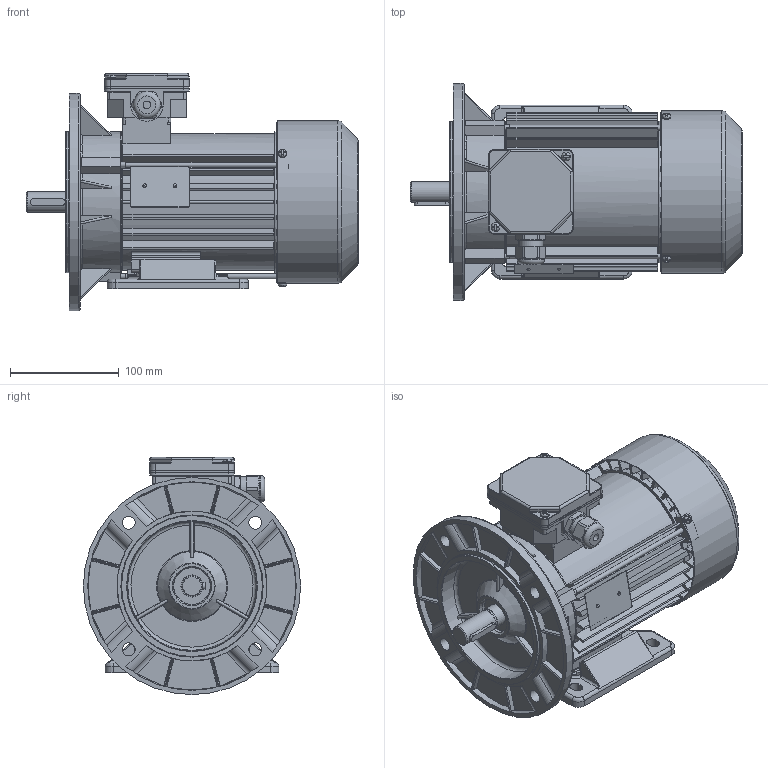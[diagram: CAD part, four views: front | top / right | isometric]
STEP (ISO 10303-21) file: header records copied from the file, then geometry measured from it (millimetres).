
FILE_DESCRIPTION(/* description */ ('Unknown'),/* implementation_level */ '2;1');
FILE_NAME(/* name */ '2SIEL80-6B',/* time_stamp */ '2021-04-12T15:01:57+02:00',/* author */ ('Unknown'),/* organization */ ('Unknown'),/* preprocessor_version */ 'ST-DEVELOPER v16.7',/* originating_system */ 'Solid Edge',/* authorisation */ 'Unknown');
FILE_SCHEMA (('AUTOMOTIVE_DESIGN {1 0 10303 214 3 1 1}'));
Products named in the file (1): 2SIEL80-6B
Bounding box: 305.79 x 200 x 218.5 mm (x, y, z)
Volume: 1196962.8 mm3; surface area: 615313.3 mm2
Topology: 4 solids, 4 shells, 2523 faces, 7134 edges, 4603 vertices
Faces by surface type: plane 1263, cylinder 876, bspline 144, torus 128, cone 94, sphere 18
Full cylindrical faces by diameter (mm): 2 x2, 2.4 x2, 3 x1, 3.7 x8, 4 x3, 4.5 x1, 4.6 x3, 4.8 x2, 5 x5, 5.5 x3, 6.5 x4, 7 x1, 8 x9, 12 x4, 18.598 x1, 18.998 x1, 19.298 x1, 19.498 x1, 19.898 x1, 19.948 x1, 19.998 x2, 20.4 x2, 22.3 x1, 25 x1, 25.497 x1, 25.647 x1, 25.997 x3, 26.047 x1, 28.799 x4, 34 x2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
Entity records: 100164 total; most frequent: CARTESIAN_POINT 20529, ORIENTED_EDGE 13502, DIRECTION 12797, EDGE_CURVE 6751, AXIS2_PLACEMENT_3D 4604, VERTEX_POINT 4482, LINE 3589, VECTOR 3589
